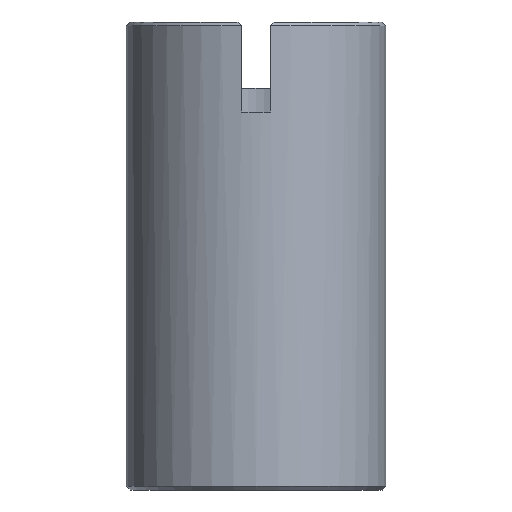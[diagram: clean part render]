
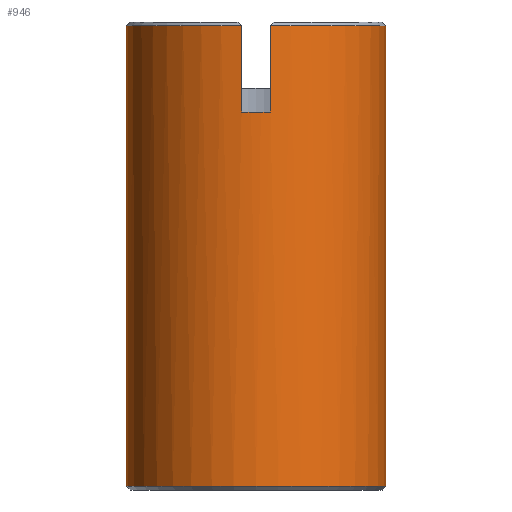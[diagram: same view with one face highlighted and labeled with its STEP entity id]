
A CAD part, front view. The second image highlights one B-rep face of the part: STEP entity #946.
In plain terms, the highlighted cylindrical face has radius 18 mm (diameter 36 mm), a partial arc.
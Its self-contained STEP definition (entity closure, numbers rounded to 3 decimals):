
#237=AXIS2_PLACEMENT_3D('Circle Axis2P3D',#235,#236,$) ;
#484=AXIS2_PLACEMENT_3D('Circle Axis2P3D',#482,#483,$) ;
#738=AXIS2_PLACEMENT_3D('Circle Axis2P3D',#736,#737,$) ;
#901=AXIS2_PLACEMENT_3D('Cylinder Axis2P3D',#898,#899,#900) ;
#933=AXIS2_PLACEMENT_3D('Circle Axis2P3D',#931,#932,$) ;
#225=CARTESIAN_POINT('Vertex',(-18.,0.,0.5)) ;
#232=CARTESIAN_POINT('Vertex',(18.,0.,0.5)) ;
#235=CARTESIAN_POINT('Axis2P3D Location',(0.,0.,0.5)) ;
#482=CARTESIAN_POINT('Axis2P3D Location',(0.,0.,52.5)) ;
#486=CARTESIAN_POINT('Vertex',(-2.,-17.889,52.5)) ;
#488=CARTESIAN_POINT('Vertex',(2.,-17.889,52.5)) ;
#645=CARTESIAN_POINT('Line Origine',(-2.,-17.889,58.5)) ;
#649=CARTESIAN_POINT('Vertex',(-2.,-17.889,64.5)) ;
#733=CARTESIAN_POINT('Vertex',(-18.,0.,64.5)) ;
#736=CARTESIAN_POINT('Axis2P3D Location',(0.,0.,64.5)) ;
#877=CARTESIAN_POINT('Line Origine',(2.,-17.889,58.5)) ;
#881=CARTESIAN_POINT('Vertex',(2.,-17.889,64.5)) ;
#898=CARTESIAN_POINT('Axis2P3D Location',(0.,0.,27.15)) ;
#903=CARTESIAN_POINT('Line Origine',(18.,0.,49.3)) ;
#907=CARTESIAN_POINT('Vertex',(18.,0.,64.5)) ;
#910=CARTESIAN_POINT('Line Origine',(-18.,0.,49.3)) ;
#931=CARTESIAN_POINT('Axis2P3D Location',(0.,0.,64.5)) ;
#236=DIRECTION('Axis2P3D Direction',(0.,0.,1.)) ;
#483=DIRECTION('Axis2P3D Direction',(0.,0.,1.)) ;
#646=DIRECTION('Vector Direction',(0.,0.,-1.)) ;
#737=DIRECTION('Axis2P3D Direction',(0.,0.,1.)) ;
#878=DIRECTION('Vector Direction',(0.,0.,-1.)) ;
#899=DIRECTION('Axis2P3D Direction',(0.,0.,1.)) ;
#900=DIRECTION('Axis2P3D XDirection',(1.,0.,0.)) ;
#904=DIRECTION('Vector Direction',(0.,0.,1.)) ;
#911=DIRECTION('Vector Direction',(0.,0.,1.)) ;
#932=DIRECTION('Axis2P3D Direction',(0.,0.,1.)) ;
#647=VECTOR('Line Direction',#646,1.) ;
#879=VECTOR('Line Direction',#878,1.) ;
#905=VECTOR('Line Direction',#904,1.) ;
#912=VECTOR('Line Direction',#911,1.) ;
#937=ORIENTED_EDGE('',*,*,#883,.T.) ;
#938=ORIENTED_EDGE('',*,*,#490,.F.) ;
#939=ORIENTED_EDGE('',*,*,#651,.F.) ;
#940=ORIENTED_EDGE('',*,*,#740,.T.) ;
#941=ORIENTED_EDGE('',*,*,#914,.F.) ;
#942=ORIENTED_EDGE('',*,*,#239,.T.) ;
#943=ORIENTED_EDGE('',*,*,#909,.T.) ;
#944=ORIENTED_EDGE('',*,*,#935,.T.) ;
#946=ADVANCED_FACE('\X2\96F64EF651E04F554F53\X0\',(#945),#902,.T.) ;
#238=CIRCLE('generated circle',#237,18.) ;
#485=CIRCLE('generated circle',#484,18.) ;
#739=CIRCLE('generated circle',#738,18.) ;
#934=CIRCLE('generated circle',#933,18.) ;
#902=CYLINDRICAL_SURFACE('generated cylinder',#901,18.) ;
#239=EDGE_CURVE('',#226,#233,#238,.T.) ;
#490=EDGE_CURVE('',#487,#489,#485,.T.) ;
#651=EDGE_CURVE('',#650,#487,#648,.T.) ;
#740=EDGE_CURVE('',#650,#734,#739,.F.) ;
#883=EDGE_CURVE('',#882,#489,#880,.T.) ;
#909=EDGE_CURVE('',#233,#908,#906,.T.) ;
#914=EDGE_CURVE('',#226,#734,#913,.T.) ;
#935=EDGE_CURVE('',#908,#882,#934,.F.) ;
#936=EDGE_LOOP('',(#937,#938,#939,#940,#941,#942,#943,#944)) ;
#945=FACE_OUTER_BOUND('',#936,.T.) ;
#648=LINE('Line',#645,#647) ;
#880=LINE('Line',#877,#879) ;
#906=LINE('Line',#903,#905) ;
#913=LINE('Line',#910,#912) ;
#226=VERTEX_POINT('',#225) ;
#233=VERTEX_POINT('',#232) ;
#487=VERTEX_POINT('',#486) ;
#489=VERTEX_POINT('',#488) ;
#650=VERTEX_POINT('',#649) ;
#734=VERTEX_POINT('',#733) ;
#882=VERTEX_POINT('',#881) ;
#908=VERTEX_POINT('',#907) ;
